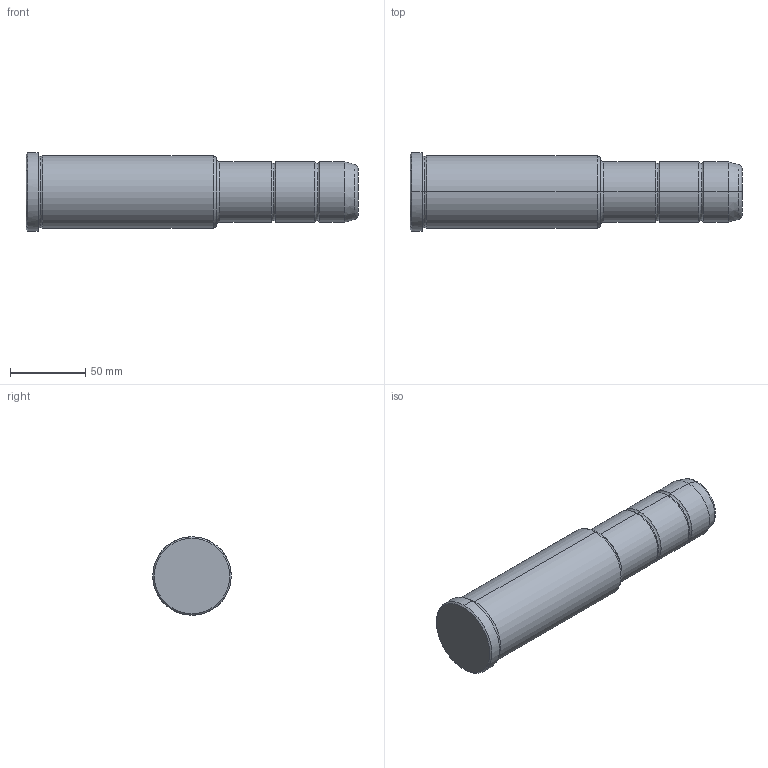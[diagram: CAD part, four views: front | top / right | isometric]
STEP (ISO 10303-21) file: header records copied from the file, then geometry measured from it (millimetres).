
FILE_DESCRIPTION(('CATIA V5 STEP Exchange'),'2;1');
FILE_NAME('C:\Users\Utente\Desktop\IO LAVORO\3D X SITO CF\X SITO\PLASTICA\351\351-40X126X220.stp','2021-11-03T19:14:47+00:00',('none'),('none'),'CATIA Version 5 Release 20 GA (IN-10)','CATIA V5 STEP AP203','none');
FILE_SCHEMA(('CONFIG_CONTROL_DESIGN'));
Length unit declared in the file: millimetre
Products named in the file (1): 351-40X126X220
Bounding box: 220 x 52 x 52 mm (x, y, z)
Volume: 346457.5 mm3; surface area: 34608.6 mm2
Topology: 1 solids, 1 shells, 36 faces, 102 edges, 70 vertices
Faces by surface type: torus 16, cylinder 10, cone 6, plane 4
Entity records: 1292 total; most frequent: CARTESIAN_POINT 321, ORIENTED_EDGE 204, DIRECTION 166, AXIS2_PLACEMENT_3D 115, EDGE_CURVE 102, CIRCLE 78, VERTEX_POINT 70, EDGE_LOOP 38
